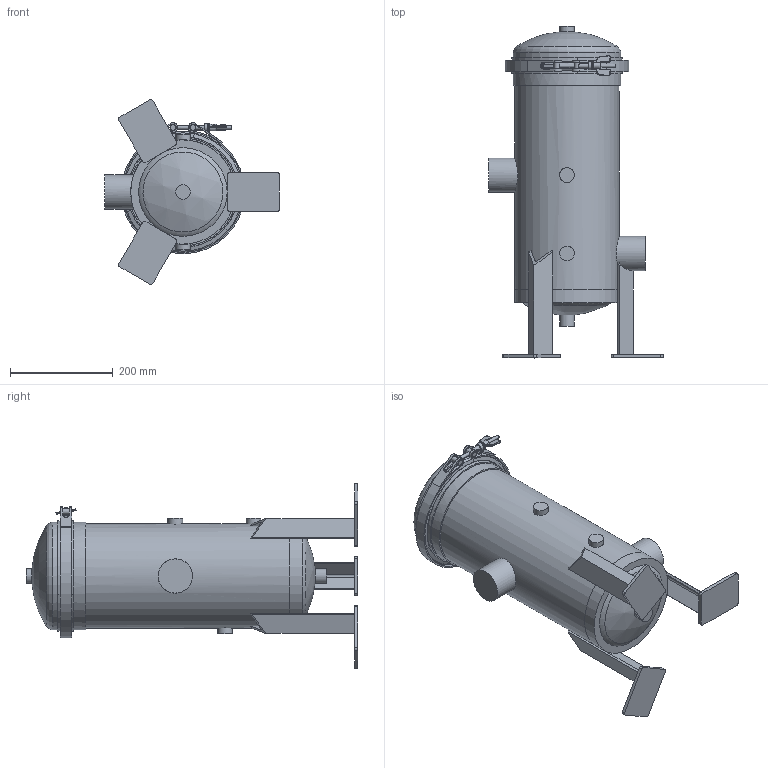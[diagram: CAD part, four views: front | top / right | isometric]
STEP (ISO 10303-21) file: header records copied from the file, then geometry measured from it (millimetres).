
FILE_DESCRIPTION (( 'STEP AP203' ), '1' );
FILE_NAME ('V5068.STEP', '2025-12-10T20:48:36', ( '' ), ( '' ), 'SwSTEP 2.0', 'SolidWorks 2023', '' );
FILE_SCHEMA (( 'CONFIG_CONTROL_DESIGN' ));
Length unit declared in the file: inch
Products named in the file (1): V5068
Bounding box: 340.13 x 646.11 x 359.77 mm (x, y, z)
Volume: 18110150.5 mm3; surface area: 660953.7 mm2
Topology: 9 solids, 9 shells, 385 faces, 944 edges, 576 vertices
Faces by surface type: cylinder 140, plane 129, torus 65, bspline 40, cone 10, sphere 1
Full cylindrical faces by diameter (mm): 6.35 x5, 7.937 x2, 9.525 x2, 11.113 x4, 15.24 x2, 15.875 x2, 28.575 x5, 66.675 x2, 203.2 x1, 209.525 x2
Entity records: 13306 total; most frequent: CARTESIAN_POINT 4656, DIRECTION 1828, ORIENTED_EDGE 1732, EDGE_CURVE 866, AXIS2_PLACEMENT_3D 738, VERTEX_POINT 552, EDGE_LOOP 450, FACE_OUTER_BOUND 426
